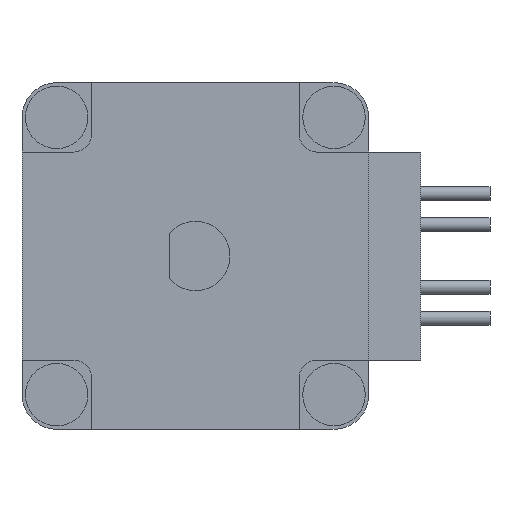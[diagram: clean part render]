
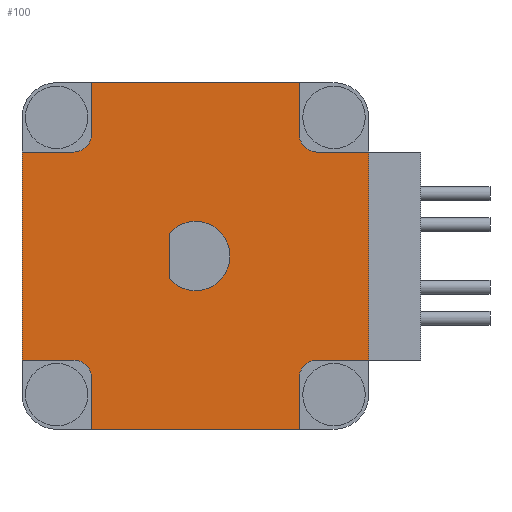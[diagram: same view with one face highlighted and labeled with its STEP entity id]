
A CAD part, left-side view. The second image highlights one B-rep face of the part: STEP entity #100.
In plain terms, the highlighted planar face has unit normal (-1, 0, 0).
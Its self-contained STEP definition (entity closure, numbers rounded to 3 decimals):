
#100 = ADVANCED_FACE( '', ( #257, #258 ), #259, .T. );
#257 = FACE_BOUND( '', #536, .T. );
#258 = FACE_OUTER_BOUND( '', #537, .T. );
#259 = PLANE( '', #538 );
#536 = EDGE_LOOP( '', ( #938, #939, #940, #941 ) );
#537 = EDGE_LOOP( '', ( #942, #943, #944, #945, #946, #947, #948, #949, #950, #951, #952, #953, #954, #955, #956, #957 ) );
#538 = AXIS2_PLACEMENT_3D( '', #958, #959, #960 );
#938 = ORIENTED_EDGE( '', *, *, #1877, .T. );
#939 = ORIENTED_EDGE( '', *, *, #1881, .T. );
#940 = ORIENTED_EDGE( '', *, *, #1886, .T. );
#941 = ORIENTED_EDGE( '', *, *, #1885, .F. );
#942 = ORIENTED_EDGE( '', *, *, #1887, .T. );
#943 = ORIENTED_EDGE( '', *, *, #1888, .T. );
#944 = ORIENTED_EDGE( '', *, *, #1889, .T. );
#945 = ORIENTED_EDGE( '', *, *, #1890, .T. );
#946 = ORIENTED_EDGE( '', *, *, #1891, .T. );
#947 = ORIENTED_EDGE( '', *, *, #1892, .T. );
#948 = ORIENTED_EDGE( '', *, *, #1893, .T. );
#949 = ORIENTED_EDGE( '', *, *, #1894, .T. );
#950 = ORIENTED_EDGE( '', *, *, #1895, .T. );
#951 = ORIENTED_EDGE( '', *, *, #1896, .F. );
#952 = ORIENTED_EDGE( '', *, *, #1897, .T. );
#953 = ORIENTED_EDGE( '', *, *, #1898, .T. );
#954 = ORIENTED_EDGE( '', *, *, #1899, .T. );
#955 = ORIENTED_EDGE( '', *, *, #1900, .F. );
#956 = ORIENTED_EDGE( '', *, *, #1901, .T. );
#957 = ORIENTED_EDGE( '', *, *, #1902, .T. );
#958 = CARTESIAN_POINT( '', ( -30., 10., 10. ) );
#959 = DIRECTION( '', ( -1., 0., 0. ) );
#960 = DIRECTION( '', ( 0., 1., 0. ) );
#1877 = EDGE_CURVE( '', #2267, #2265, #2268, .T. );
#1881 = EDGE_CURVE( '', #2265, #2272, #2275, .T. );
#1885 = EDGE_CURVE( '', #2267, #2278, #2281, .T. );
#1886 = EDGE_CURVE( '', #2272, #2278, #2282, .T. );
#1887 = EDGE_CURVE( '', #2283, #2284, #2285, .T. );
#1888 = EDGE_CURVE( '', #2284, #2286, #2287, .T. );
#1889 = EDGE_CURVE( '', #2286, #2288, #2289, .T. );
#1890 = EDGE_CURVE( '', #2288, #2290, #2291, .T. );
#1891 = EDGE_CURVE( '', #2290, #2292, #2293, .T. );
#1892 = EDGE_CURVE( '', #2292, #2294, #2295, .T. );
#1893 = EDGE_CURVE( '', #2294, #2296, #2297, .T. );
#1894 = EDGE_CURVE( '', #2296, #2298, #2299, .T. );
#1895 = EDGE_CURVE( '', #2298, #2300, #2301, .T. );
#1896 = EDGE_CURVE( '', #2302, #2300, #2303, .T. );
#1897 = EDGE_CURVE( '', #2302, #2304, #2305, .T. );
#1898 = EDGE_CURVE( '', #2304, #2306, #2307, .T. );
#1899 = EDGE_CURVE( '', #2306, #2308, #2309, .T. );
#1900 = EDGE_CURVE( '', #2310, #2308, #2311, .T. );
#1901 = EDGE_CURVE( '', #2310, #2312, #2313, .T. );
#1902 = EDGE_CURVE( '', #2312, #2283, #2314, .T. );
#2265 = VERTEX_POINT( '', #2834 );
#2267 = VERTEX_POINT( '', #2837 );
#2268 = CIRCLE( '', #2838, 2. );
#2272 = VERTEX_POINT( '', #2843 );
#2275 = CIRCLE( '', #2847, 2. );
#2278 = VERTEX_POINT( '', #2850 );
#2281 = LINE( '', #2855, #2856 );
#2282 = CIRCLE( '', #2857, 2. );
#2283 = VERTEX_POINT( '', #2858 );
#2284 = VERTEX_POINT( '', #2859 );
#2285 = LINE( '', #2860, #2861 );
#2286 = VERTEX_POINT( '', #2862 );
#2287 = LINE( '', #2863, #2864 );
#2288 = VERTEX_POINT( '', #2865 );
#2289 = LINE( '', #2866, #2867 );
#2290 = VERTEX_POINT( '', #2868 );
#2291 = CIRCLE( '', #2869, 1. );
#2292 = VERTEX_POINT( '', #2870 );
#2293 = LINE( '', #2871, #2872 );
#2294 = VERTEX_POINT( '', #2873 );
#2295 = LINE( '', #2874, #2875 );
#2296 = VERTEX_POINT( '', #2876 );
#2297 = LINE( '', #2877, #2878 );
#2298 = VERTEX_POINT( '', #2879 );
#2299 = CIRCLE( '', #2880, 1. );
#2300 = VERTEX_POINT( '', #2881 );
#2301 = LINE( '', #2882, #2883 );
#2302 = VERTEX_POINT( '', #2884 );
#2303 = LINE( '', #2885, #2886 );
#2304 = VERTEX_POINT( '', #2887 );
#2305 = LINE( '', #2888, #2889 );
#2306 = VERTEX_POINT( '', #2890 );
#2307 = CIRCLE( '', #2891, 1. );
#2308 = VERTEX_POINT( '', #2892 );
#2309 = LINE( '', #2893, #2894 );
#2310 = VERTEX_POINT( '', #2895 );
#2311 = LINE( '', #2896, #2897 );
#2312 = VERTEX_POINT( '', #2898 );
#2313 = LINE( '', #2899, #2900 );
#2314 = CIRCLE( '', #2901, 1. );
#2834 = CARTESIAN_POINT( '', ( -30., 0., 2. ) );
#2837 = CARTESIAN_POINT( '', ( -30., 1.5, 1.323 ) );
#2838 = AXIS2_PLACEMENT_3D( '', #3515, #3516, #3517 );
#2843 = CARTESIAN_POINT( '', ( -30., 0., -2. ) );
#2847 = AXIS2_PLACEMENT_3D( '', #3523, #3524, #3525 );
#2850 = CARTESIAN_POINT( '', ( -30., 1.5, -1.323 ) );
#2855 = CARTESIAN_POINT( '', ( -30., 1.5, 2. ) );
#2856 = VECTOR( '', #3531, 1. );
#2857 = AXIS2_PLACEMENT_3D( '', #3532, #3533, #3534 );
#2858 = CARTESIAN_POINT( '', ( -30., 7., 6. ) );
#2859 = CARTESIAN_POINT( '', ( -30., 10., 6. ) );
#2860 = CARTESIAN_POINT( '', ( -30., 8.5, 6. ) );
#2861 = VECTOR( '', #3535, 1. );
#2862 = CARTESIAN_POINT( '', ( -30., 10., -6. ) );
#2863 = CARTESIAN_POINT( '', ( -30., 10., 10. ) );
#2864 = VECTOR( '', #3536, 1. );
#2865 = CARTESIAN_POINT( '', ( -30., 7., -6. ) );
#2866 = CARTESIAN_POINT( '', ( -30., 10., -6. ) );
#2867 = VECTOR( '', #3537, 1. );
#2868 = CARTESIAN_POINT( '', ( -30., 6., -7. ) );
#2869 = AXIS2_PLACEMENT_3D( '', #3538, #3539, #3540 );
#2870 = CARTESIAN_POINT( '', ( -30., 6., -10. ) );
#2871 = CARTESIAN_POINT( '', ( -30., 6., 1.5 ) );
#2872 = VECTOR( '', #3541, 1. );
#2873 = CARTESIAN_POINT( '', ( -30., -6., -10. ) );
#2874 = CARTESIAN_POINT( '', ( -30., 10., -10. ) );
#2875 = VECTOR( '', #3542, 1. );
#2876 = CARTESIAN_POINT( '', ( -30., -6., -7. ) );
#2877 = CARTESIAN_POINT( '', ( -30., -6., 0. ) );
#2878 = VECTOR( '', #3543, 1. );
#2879 = CARTESIAN_POINT( '', ( -30., -7., -6. ) );
#2880 = AXIS2_PLACEMENT_3D( '', #3544, #3545, #3546 );
#2881 = CARTESIAN_POINT( '', ( -30., -10., -6. ) );
#2882 = CARTESIAN_POINT( '', ( -30., 1.5, -6. ) );
#2883 = VECTOR( '', #3547, 1. );
#2884 = CARTESIAN_POINT( '', ( -30., -10., 6. ) );
#2885 = CARTESIAN_POINT( '', ( -30., -10., 10. ) );
#2886 = VECTOR( '', #3548, 1. );
#2887 = CARTESIAN_POINT( '', ( -30., -7., 6. ) );
#2888 = CARTESIAN_POINT( '', ( -30., 0., 6. ) );
#2889 = VECTOR( '', #3549, 1. );
#2890 = CARTESIAN_POINT( '', ( -30., -6., 7. ) );
#2891 = AXIS2_PLACEMENT_3D( '', #3550, #3551, #3552 );
#2892 = CARTESIAN_POINT( '', ( -30., -6., 10. ) );
#2893 = CARTESIAN_POINT( '', ( -30., -6., 8.5 ) );
#2894 = VECTOR( '', #3553, 1. );
#2895 = CARTESIAN_POINT( '', ( -30., 6., 10. ) );
#2896 = CARTESIAN_POINT( '', ( -30., 10., 10. ) );
#2897 = VECTOR( '', #3554, 1. );
#2898 = CARTESIAN_POINT( '', ( -30., 6., 7. ) );
#2899 = CARTESIAN_POINT( '', ( -30., 6., 10. ) );
#2900 = VECTOR( '', #3555, 1. );
#2901 = AXIS2_PLACEMENT_3D( '', #3556, #3557, #3558 );
#3515 = CARTESIAN_POINT( '', ( -30., 0., 0. ) );
#3516 = DIRECTION( '', ( 1., 0., 0. ) );
#3517 = DIRECTION( '', ( 0., 0., -1. ) );
#3523 = CARTESIAN_POINT( '', ( -30., 0., 0. ) );
#3524 = DIRECTION( '', ( 1., 0., 0. ) );
#3525 = DIRECTION( '', ( 0., 0., -1. ) );
#3531 = DIRECTION( '', ( 0., 0., -1. ) );
#3532 = CARTESIAN_POINT( '', ( -30., 0., 0. ) );
#3533 = DIRECTION( '', ( 1., 0., 0. ) );
#3534 = DIRECTION( '', ( 0., 0., -1. ) );
#3535 = DIRECTION( '', ( 0., 1., 0. ) );
#3536 = DIRECTION( '', ( 0., 0., -1. ) );
#3537 = DIRECTION( '', ( 0., -1., 0. ) );
#3538 = CARTESIAN_POINT( '', ( -30., 7., -7. ) );
#3539 = DIRECTION( '', ( 1., 0., 0. ) );
#3540 = DIRECTION( '', ( 0., -1., 0. ) );
#3541 = DIRECTION( '', ( 0., 0., -1. ) );
#3542 = DIRECTION( '', ( 0., -1., 0. ) );
#3543 = DIRECTION( '', ( 0., 0., 1. ) );
#3544 = CARTESIAN_POINT( '', ( -30., -7., -7. ) );
#3545 = DIRECTION( '', ( 1., 0., 0. ) );
#3546 = DIRECTION( '', ( 0., 0., 1. ) );
#3547 = DIRECTION( '', ( 0., -1., 0. ) );
#3548 = DIRECTION( '', ( 0., 0., -1. ) );
#3549 = DIRECTION( '', ( 0., 1., 0. ) );
#3550 = CARTESIAN_POINT( '', ( -30., -7., 7. ) );
#3551 = DIRECTION( '', ( 1., 0., 0. ) );
#3552 = DIRECTION( '', ( 0., 1., 0. ) );
#3553 = DIRECTION( '', ( 0., 0., 1. ) );
#3554 = DIRECTION( '', ( 0., -1., 0. ) );
#3555 = DIRECTION( '', ( 0., 0., -1. ) );
#3556 = CARTESIAN_POINT( '', ( -30., 7., 7. ) );
#3557 = DIRECTION( '', ( 1., 0., 0. ) );
#3558 = DIRECTION( '', ( 0., 0., -1. ) );
